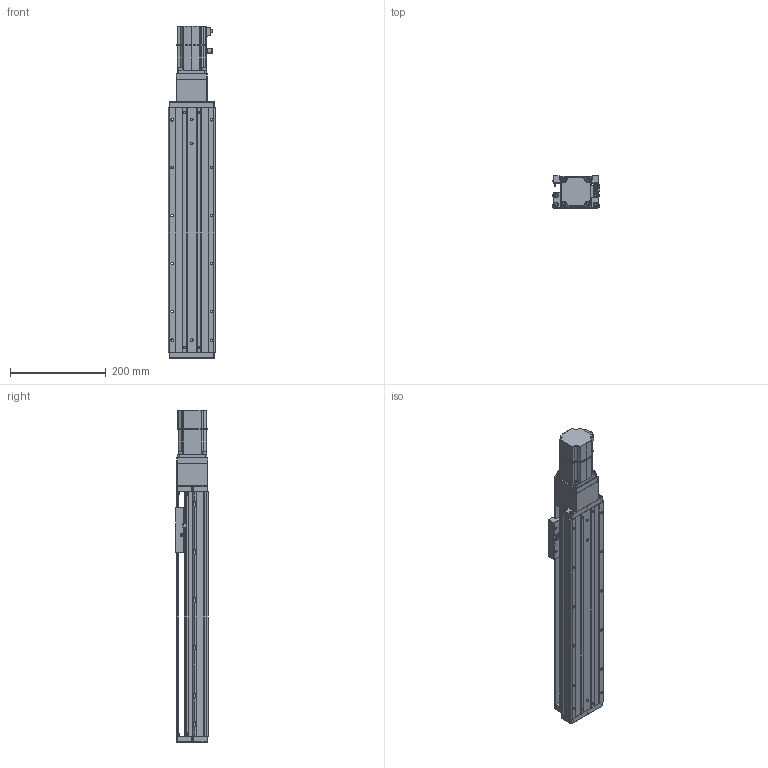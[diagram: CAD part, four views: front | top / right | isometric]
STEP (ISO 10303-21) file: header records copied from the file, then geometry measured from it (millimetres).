
FILE_DESCRIPTION (( 'STEP AP203' ), '1' );
FILE_NAME ('KTHA100-350-BC-M20-C4L.step', '2022-04-26T01:44:07', ( '微软用户' ), ( '微软中国' ), 'SwSTEP 2.0', 'SolidWorks 2020', '' );
FILE_SCHEMA (( 'CONFIG_CONTROL_DESIGN' ));
Length unit declared in the file: millimetre
Products named in the file (18): CTHA86-027; KTHA100-004; GBT 70.1-M3℅6; CTHA86-006-1_CTHA86-006-2; KTHA100-005; GBT70.1 M5℅16; KTHA100-350-BC-M20-C4L; GB¨uT 70.2-M3¡Á5_M3¡Á6; CTHA60-016; EE_SX911P_R; GBT 70.3-M3℅6; CTHA60-017; _X2_4E0983F1_X0_200W_1; KTHA100-001_510; CTHA60-021; CTHA86-013; KTHA100-002; GBT77-2000 M3×3
Assembly tree (56 placements, depth 2):
  KTHA100-350-BC-M20-C4L
    KTHA100-001_510
    KTHA100-002
    KTHA100-004
    KTHA100-005
    GB¨uT 70.2-M3¡Á5_M3¡Á6  x6
    EE_SX911P_R  x3
    CTHA60-017  x3
    CTHA60-021  x2
    GBT77-2000 M3×3  x6
    GBT 70.1-M3℅6  x6
    GBT70.1 M5℅16  x14
    CTHA60-016  x2
    GBT 70.3-M3℅6  x6
    _X2_4E0983F1_X0_200W_1
    CTHA86-013
    CTHA86-027
    CTHA86-006-1_CTHA86-006-2
Bounding box: 98.82 x 68 x 692.5 mm (x, y, z)
Volume: 2634422.6 mm3; surface area: 451053.1 mm2
Topology: 59 solids, 59 shells, 2367 faces, 5632 edges, 3472 vertices
Faces by surface type: plane 1203, cylinder 649, cone 326, torus 104, bspline 69, sphere 16
Entity records: 40306 total; most frequent: CARTESIAN_POINT 7751, DIRECTION 6329, ORIENTED_EDGE 6032, EDGE_CURVE 3016, AXIS2_PLACEMENT_3D 2222, VERTEX_POINT 1890, LINE 1885, VECTOR 1885
